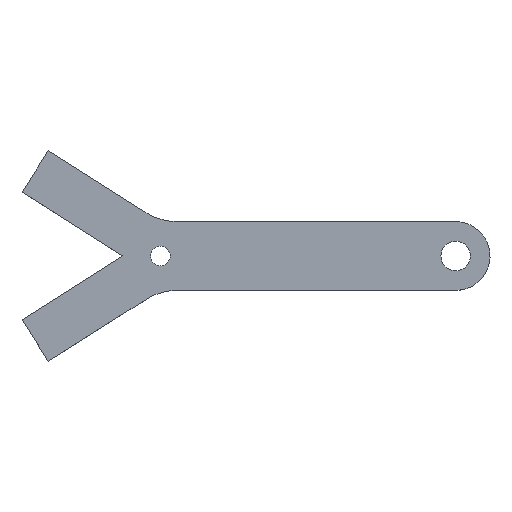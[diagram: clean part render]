
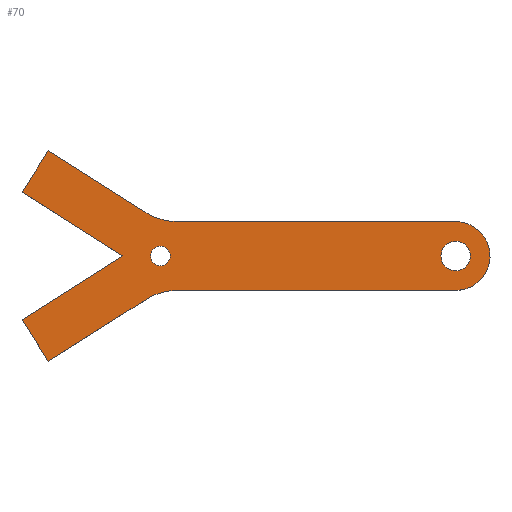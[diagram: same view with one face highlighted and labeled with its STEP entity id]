
A CAD part, top view. The second image highlights one B-rep face of the part: STEP entity #70.
In plain terms, the highlighted planar face has unit normal (0, 0, 1).
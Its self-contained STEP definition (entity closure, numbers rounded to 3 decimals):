
#70=ADVANCED_FACE('',(#113,#114,#115),#116,.T.);
#113=FACE_BOUND('',#158,.T.);
#114=FACE_BOUND('',#159,.T.);
#115=FACE_OUTER_BOUND('',#160,.T.);
#116=PLANE('',#161);
#158=EDGE_LOOP('',(#310,#311));
#159=EDGE_LOOP('',(#312,#313));
#160=EDGE_LOOP('',(#314,#315,#316,#317,#318,#319,#320,#321,#322,#323,#324,#325,#326,#327));
#161=AXIS2_PLACEMENT_3D('',#328,#329,#330);
#310=ORIENTED_EDGE('',*,*,#349,.T.);
#311=ORIENTED_EDGE('',*,*,#353,.T.);
#312=ORIENTED_EDGE('',*,*,#333,.T.);
#313=ORIENTED_EDGE('',*,*,#375,.T.);
#314=ORIENTED_EDGE('',*,*,#347,.F.);
#315=ORIENTED_EDGE('',*,*,#376,.F.);
#316=ORIENTED_EDGE('',*,*,#371,.F.);
#317=ORIENTED_EDGE('',*,*,#339,.F.);
#318=ORIENTED_EDGE('',*,*,#374,.F.);
#319=ORIENTED_EDGE('',*,*,#385,.F.);
#320=ORIENTED_EDGE('',*,*,#383,.F.);
#321=ORIENTED_EDGE('',*,*,#381,.F.);
#322=ORIENTED_EDGE('',*,*,#379,.F.);
#323=ORIENTED_EDGE('',*,*,#377,.F.);
#324=ORIENTED_EDGE('',*,*,#368,.F.);
#325=ORIENTED_EDGE('',*,*,#343,.F.);
#326=ORIENTED_EDGE('',*,*,#370,.F.);
#327=ORIENTED_EDGE('',*,*,#366,.F.);
#328=CARTESIAN_POINT('',(-3.498,-39.413,-5.));
#329=DIRECTION('',(0.0,0.0,1.0));
#330=DIRECTION('',(1.0,0.0,0.0));
#333=EDGE_CURVE('',#389,#386,#390,.T.);
#339=EDGE_CURVE('',#399,#395,#401,.T.);
#343=EDGE_CURVE('',#407,#403,#409,.T.);
#347=EDGE_CURVE('',#415,#411,#417,.T.);
#349=EDGE_CURVE('',#421,#418,#422,.T.);
#353=EDGE_CURVE('',#418,#421,#427,.T.);
#366=EDGE_CURVE('',#411,#448,#449,.T.);
#368=EDGE_CURVE('',#403,#451,#452,.T.);
#370=EDGE_CURVE('',#448,#407,#454,.T.);
#371=EDGE_CURVE('',#395,#455,#456,.T.);
#374=EDGE_CURVE('',#458,#399,#460,.T.);
#375=EDGE_CURVE('',#386,#389,#461,.T.);
#376=EDGE_CURVE('',#455,#415,#462,.T.);
#377=EDGE_CURVE('',#451,#463,#464,.T.);
#379=EDGE_CURVE('',#463,#466,#467,.T.);
#381=EDGE_CURVE('',#466,#469,#470,.T.);
#383=EDGE_CURVE('',#469,#472,#473,.T.);
#385=EDGE_CURVE('',#472,#458,#475,.T.);
#386=VERTEX_POINT('',#476);
#389=VERTEX_POINT('',#480);
#390=CIRCLE('',#481,1.0);
#395=VERTEX_POINT('',#487);
#399=VERTEX_POINT('',#492);
#401=CIRCLE('',#495,6.0);
#403=VERTEX_POINT('',#497);
#407=VERTEX_POINT('',#502);
#409=CIRCLE('',#505,6.0);
#411=VERTEX_POINT('',#507);
#415=VERTEX_POINT('',#512);
#417=CIRCLE('',#515,3.5);
#418=VERTEX_POINT('',#516);
#421=VERTEX_POINT('',#520);
#422=CIRCLE('',#521,1.5);
#427=CIRCLE('',#527,1.5);
#448=VERTEX_POINT('',#556);
#449=CIRCLE('',#557,3.5);
#451=VERTEX_POINT('',#560);
#452=CIRCLE('',#561,6.0);
#454=LINE('',#564,#565);
#455=VERTEX_POINT('',#566);
#456=CIRCLE('',#567,6.0);
#458=VERTEX_POINT('',#570);
#460=LINE('',#573,#574);
#461=CIRCLE('',#575,1.0);
#462=LINE('',#576,#577);
#463=VERTEX_POINT('',#578);
#464=LINE('',#579,#580);
#466=VERTEX_POINT('',#583);
#467=LINE('',#584,#585);
#469=VERTEX_POINT('',#588);
#470=LINE('',#589,#590);
#472=VERTEX_POINT('',#593);
#473=LINE('',#594,#595);
#475=LINE('',#598,#599);
#476=CARTESIAN_POINT('',(-32.553,-39.413,-5.));
#480=CARTESIAN_POINT('',(-34.553,-39.413,-5.));
#481=AXIS2_PLACEMENT_3D('',#601,#602,#603);
#487=CARTESIAN_POINT('',(-33.494,-35.676,-5.));
#492=CARTESIAN_POINT('',(-35.031,-34.985,-5.));
#495=AXIS2_PLACEMENT_3D('',#613,#614,#615);
#497=CARTESIAN_POINT('',(-33.472,-43.148,-5.));
#502=CARTESIAN_POINT('',(-31.807,-42.913,-5.));
#505=AXIS2_PLACEMENT_3D('',#621,#622,#623);
#507=CARTESIAN_POINT('',(-1.023,-36.938,-5.));
#512=CARTESIAN_POINT('',(-3.498,-35.913,-5.));
#515=AXIS2_PLACEMENT_3D('',#629,#630,#631);
#516=CARTESIAN_POINT('',(-1.998,-39.413,-5.));
#520=CARTESIAN_POINT('',(-4.998,-39.413,-5.));
#521=AXIS2_PLACEMENT_3D('',#633,#634,#635);
#527=AXIS2_PLACEMENT_3D('',#643,#644,#645);
#556=CARTESIAN_POINT('',(-3.498,-42.913,-5.));
#557=AXIS2_PLACEMENT_3D('',#666,#667,#668);
#560=CARTESIAN_POINT('',(-35.007,-43.837,-5.));
#561=AXIS2_PLACEMENT_3D('',#670,#671,#672);
#564=CARTESIAN_POINT('',(0.002,-42.913,-5.));
#565=VECTOR('',#674,1.0);
#566=CARTESIAN_POINT('',(-31.826,-35.913,-5.));
#567=AXIS2_PLACEMENT_3D('',#675,#676,#677);
#570=CARTESIAN_POINT('',(-44.967,-28.708,-5.));
#573=CARTESIAN_POINT('',(-44.967,-28.708,-5.));
#574=VECTOR('',#680,1.0);
#575=AXIS2_PLACEMENT_3D('',#681,#682,#683);
#576=CARTESIAN_POINT('',(-33.563,-35.913,-5.));
#577=VECTOR('',#684,1.0);
#578=CARTESIAN_POINT('',(-44.967,-50.117,-5.));
#579=CARTESIAN_POINT('',(-33.54,-42.913,-5.));
#580=VECTOR('',#685,1.0);
#583=CARTESIAN_POINT('',(-47.642,-45.902,-5.));
#584=CARTESIAN_POINT('',(-44.967,-50.117,-5.));
#585=VECTOR('',#687,1.0);
#588=CARTESIAN_POINT('',(-37.415,-39.413,-5.));
#589=CARTESIAN_POINT('',(-47.642,-45.902,-5.));
#590=VECTOR('',#689,1.0);
#593=CARTESIAN_POINT('',(-47.642,-32.923,-5.));
#594=CARTESIAN_POINT('',(-37.415,-39.413,-5.));
#595=VECTOR('',#691,1.0);
#598=CARTESIAN_POINT('',(-47.642,-32.923,-5.));
#599=VECTOR('',#693,1.0);
#601=CARTESIAN_POINT('',(-33.553,-39.413,-5.));
#602=DIRECTION('',(0.0,0.0,-1.0));
#603=DIRECTION('',(1.0,0.0,0.0));
#613=CARTESIAN_POINT('',(-31.826,-29.913,-5.));
#614=DIRECTION('',(0.0,0.0,1.0));
#615=DIRECTION('',(-0.278,-0.961,0.0));
#621=CARTESIAN_POINT('',(-31.807,-48.913,-5.));
#622=DIRECTION('',(0.0,0.0,1.0));
#623=DIRECTION('',(-0.278,0.961,0.0));
#629=CARTESIAN_POINT('',(-3.498,-39.413,-5.));
#630=DIRECTION('',(0.0,-0.0,-1.0));
#631=DIRECTION('',(0.707,-0.707,0.0));
#633=CARTESIAN_POINT('',(-3.498,-39.413,-5.));
#634=DIRECTION('',(0.0,0.0,-1.0));
#635=DIRECTION('',(1.0,0.0,0.0));
#643=CARTESIAN_POINT('',(-3.498,-39.413,-5.));
#644=DIRECTION('',(0.0,0.0,-1.0));
#645=DIRECTION('',(1.0,0.0,0.0));
#666=CARTESIAN_POINT('',(-3.498,-39.413,-5.));
#667=DIRECTION('',(0.0,-0.0,-1.0));
#668=DIRECTION('',(0.707,-0.707,0.0));
#670=CARTESIAN_POINT('',(-31.807,-48.913,-5.));
#671=DIRECTION('',(0.0,0.0,1.0));
#672=DIRECTION('',(-0.278,0.961,0.0));
#674=DIRECTION('',(-1.0,0.,0.0));
#675=CARTESIAN_POINT('',(-31.826,-29.913,-5.));
#676=DIRECTION('',(0.0,0.0,1.0));
#677=DIRECTION('',(-0.278,-0.961,0.0));
#680=DIRECTION('',(0.845,-0.534,0.0));
#681=CARTESIAN_POINT('',(-33.553,-39.413,-5.));
#682=DIRECTION('',(0.0,0.0,-1.0));
#683=DIRECTION('',(1.0,0.0,0.0));
#684=DIRECTION('',(1.0,0.,0.0));
#685=DIRECTION('',(-0.846,-0.533,0.0));
#687=DIRECTION('',(-0.536,0.844,0.0));
#689=DIRECTION('',(0.844,0.536,0.0));
#691=DIRECTION('',(-0.844,0.536,0.0));
#693=DIRECTION('',(0.536,0.844,0.0));
